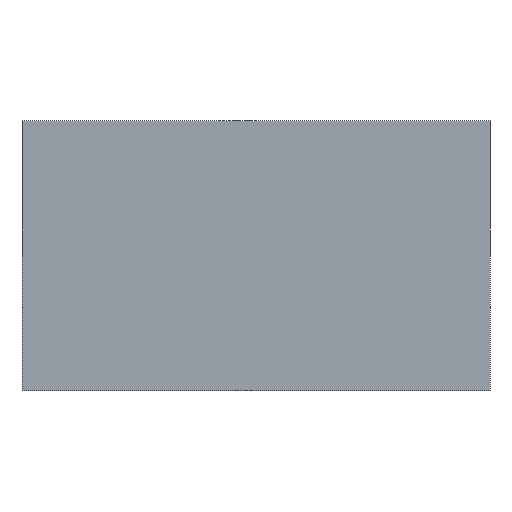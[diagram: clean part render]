
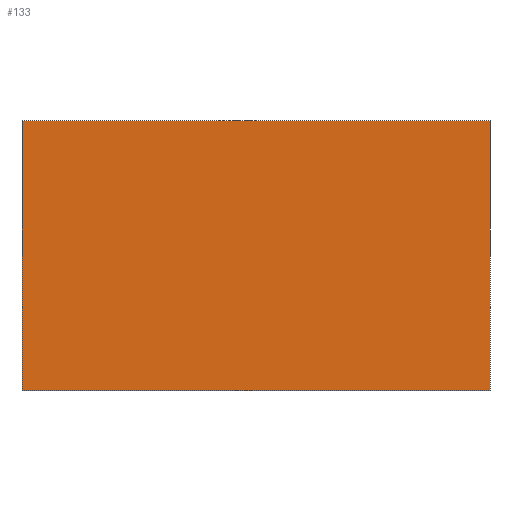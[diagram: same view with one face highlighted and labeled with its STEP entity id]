
A CAD part, front view. The second image highlights one B-rep face of the part: STEP entity #133.
In plain terms, the highlighted planar face has unit normal (0, -1, 0).
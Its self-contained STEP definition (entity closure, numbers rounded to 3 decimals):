
#5 = FACE_OUTER_BOUND ( 'NONE', #677, .T. ) ;
#32 = AXIS2_PLACEMENT_3D ( 'NONE', #453, #451, #444 ) ;
#66 = EDGE_CURVE ( 'NONE', #266, #271, #218, .T. ) ;
#76 = EDGE_CURVE ( 'NONE', #266, #267, #194, .T. ) ;
#77 = EDGE_CURVE ( 'NONE', #267, #287, #191, .T. ) ;
#114 = EDGE_CURVE ( 'NONE', #271, #287, #202, .T. ) ;
#133 = ADVANCED_FACE ( 'NONE', ( #5 ), #457, .F. ) ;
#190 = VECTOR ( 'NONE', #329, 1000. ) ;
#191 = LINE ( 'NONE', #328, #190 ) ;
#193 = VECTOR ( 'NONE', #327, 1000. ) ;
#194 = LINE ( 'NONE', #326, #193 ) ;
#202 = LINE ( 'NONE', #516, #226 ) ;
#217 = VECTOR ( 'NONE', #298, 1000. ) ;
#218 = LINE ( 'NONE', #296, #217 ) ;
#226 = VECTOR ( 'NONE', #517, 1000. ) ;
#266 = VERTEX_POINT ( 'NONE', #399 ) ;
#267 = VERTEX_POINT ( 'NONE', #408 ) ;
#271 = VERTEX_POINT ( 'NONE', #395 ) ;
#287 = VERTEX_POINT ( 'NONE', #568 ) ;
#296 = CARTESIAN_POINT ( 'NONE',  ( -104., 0., 120. ) ) ;
#298 = DIRECTION ( 'NONE',  ( 0., 0., -1. ) ) ;
#326 = CARTESIAN_POINT ( 'NONE',  ( -104., 0., 120. ) ) ;
#327 = DIRECTION ( 'NONE',  ( 1., 0., 0. ) ) ;
#328 = CARTESIAN_POINT ( 'NONE',  ( 104., 0., 120. ) ) ;
#329 = DIRECTION ( 'NONE',  ( 0., 0., -1. ) ) ;
#395 = CARTESIAN_POINT ( 'NONE',  ( -104., 0., 0. ) ) ;
#399 = CARTESIAN_POINT ( 'NONE',  ( -104., 0., 120. ) ) ;
#408 = CARTESIAN_POINT ( 'NONE',  ( 104., 0., 120. ) ) ;
#444 = DIRECTION ( 'NONE',  ( -1., 0., 0. ) ) ;
#451 = DIRECTION ( 'NONE',  ( 0., 1., 0. ) ) ;
#453 = CARTESIAN_POINT ( 'NONE',  ( -104., 0., 120. ) ) ;
#457 = PLANE ( 'NONE',  #32 ) ;
#516 = CARTESIAN_POINT ( 'NONE',  ( -104., 0., 0. ) ) ;
#517 = DIRECTION ( 'NONE',  ( 1., 0., 0. ) ) ;
#568 = CARTESIAN_POINT ( 'NONE',  ( 104., 0., 0. ) ) ;
#620 = ORIENTED_EDGE ( 'NONE', *, *, #77, .F. ) ;
#640 = ORIENTED_EDGE ( 'NONE', *, *, #76, .F. ) ;
#672 = ORIENTED_EDGE ( 'NONE', *, *, #114, .T. ) ;
#677 = EDGE_LOOP ( 'NONE', ( #672, #620, #640, #709 ) ) ;
#709 = ORIENTED_EDGE ( 'NONE', *, *, #66, .T. ) ;
